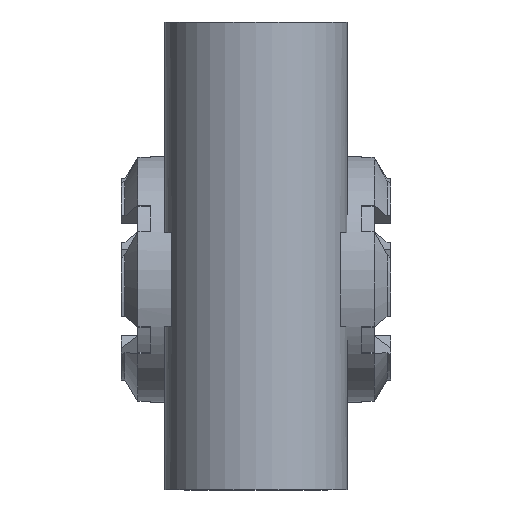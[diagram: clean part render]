
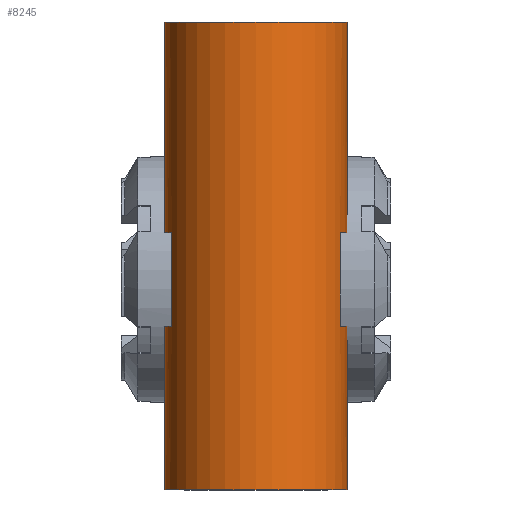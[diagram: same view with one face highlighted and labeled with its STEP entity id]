
A CAD part, front view. The second image highlights one B-rep face of the part: STEP entity #8245.
In plain terms, the highlighted cylindrical face has radius 39 mm (diameter 78 mm), a full revolution.
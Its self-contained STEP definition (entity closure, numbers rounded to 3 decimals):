
#753=CIRCLE('',#29635,39.);
#754=CIRCLE('',#29637,39.);
#755=CIRCLE('',#29638,39.);
#756=CIRCLE('',#29639,39.);
#757=CIRCLE('',#29640,39.);
#758=CIRCLE('',#29641,39.);
#3041=LINE('',#50526,#6215);
#3042=LINE('',#50531,#6216);
#3043=LINE('',#50537,#6217);
#3044=LINE('',#50541,#6218);
#3045=LINE('',#50542,#6219);
#3046=LINE('',#50555,#6220);
#6215=VECTOR('',#34543,1.);
#6216=VECTOR('',#34546,1.);
#6217=VECTOR('',#34551,1.);
#6218=VECTOR('',#34554,1.);
#6219=VECTOR('',#34555,1.);
#6220=VECTOR('',#34556,1.);
#6711=CYLINDRICAL_SURFACE('',#29642,39.);
#6900=FACE_BOUND('',#12126,.T.);
#6901=FACE_BOUND('',#12127,.T.);
#6902=FACE_BOUND('',#12128,.T.);
#6903=FACE_BOUND('',#12129,.T.);
#6904=FACE_BOUND('',#12130,.T.);
#8245=ADVANCED_FACE('',(#6900,#6901,#6902,#6903,#6904),#6711,.T.);
#12126=EDGE_LOOP('',(#19480));
#12127=EDGE_LOOP('',(#19481));
#12128=EDGE_LOOP('',(#19482,#19483,#19484,#19485));
#12129=EDGE_LOOP('',(#19486,#19487,#19488,#19489));
#12130=EDGE_LOOP('',(#19490,#19491,#19492,#19493));
#19480=ORIENTED_EDGE('',*,*,#26591,.T.);
#19481=ORIENTED_EDGE('',*,*,#26592,.T.);
#19482=ORIENTED_EDGE('',*,*,#26593,.F.);
#19483=ORIENTED_EDGE('',*,*,#26594,.T.);
#19484=ORIENTED_EDGE('',*,*,#26595,.F.);
#19485=ORIENTED_EDGE('',*,*,#26596,.T.);
#19486=ORIENTED_EDGE('',*,*,#26597,.T.);
#19487=ORIENTED_EDGE('',*,*,#26598,.F.);
#19488=ORIENTED_EDGE('',*,*,#26599,.T.);
#19489=ORIENTED_EDGE('',*,*,#26600,.F.);
#19490=ORIENTED_EDGE('',*,*,#26527,.F.);
#19491=ORIENTED_EDGE('',*,*,#26601,.F.);
#19492=ORIENTED_EDGE('',*,*,#26602,.T.);
#19493=ORIENTED_EDGE('',*,*,#26603,.F.);
#22675=VERTEX_POINT('',#47600);
#22676=VERTEX_POINT('',#47601);
#22719=VERTEX_POINT('',#50522);
#22720=VERTEX_POINT('',#50525);
#22721=VERTEX_POINT('',#50527);
#22722=VERTEX_POINT('',#50528);
#22723=VERTEX_POINT('',#50530);
#22724=VERTEX_POINT('',#50532);
#22725=VERTEX_POINT('',#50535);
#22726=VERTEX_POINT('',#50536);
#22727=VERTEX_POINT('',#50538);
#22728=VERTEX_POINT('',#50540);
#22729=VERTEX_POINT('',#50543);
#22730=VERTEX_POINT('',#50554);
#26527=EDGE_CURVE('',#22675,#22676,#28596,.T.);
#26591=EDGE_CURVE('',#22719,#22719,#753,.T.);
#26592=EDGE_CURVE('',#22720,#22720,#754,.T.);
#26593=EDGE_CURVE('',#22721,#22722,#3041,.T.);
#26594=EDGE_CURVE('',#22721,#22723,#755,.T.);
#26595=EDGE_CURVE('',#22724,#22723,#3042,.T.);
#26596=EDGE_CURVE('',#22724,#22722,#756,.T.);
#26597=EDGE_CURVE('',#22725,#22726,#757,.T.);
#26598=EDGE_CURVE('',#22727,#22726,#3043,.T.);
#26599=EDGE_CURVE('',#22727,#22728,#758,.T.);
#26600=EDGE_CURVE('',#22725,#22728,#3044,.T.);
#26601=EDGE_CURVE('',#22729,#22675,#3045,.T.);
#26602=EDGE_CURVE('',#22729,#22730,#28649,.T.);
#26603=EDGE_CURVE('',#22676,#22730,#3046,.T.);
#28596=B_SPLINE_CURVE_WITH_KNOTS('',3,(#47590,#47591,#47592,#47593,#47594,
#47595,#47596,#47597,#47598,#47599),.UNSPECIFIED.,.F.,.F.,(4,2,2,2,4),(0.,
0.25,0.5,0.75,1.),.UNSPECIFIED.);
#28649=B_SPLINE_CURVE_WITH_KNOTS('',3,(#50544,#50545,#50546,#50547,#50548,
#50549,#50550,#50551,#50552,#50553),.UNSPECIFIED.,.F.,.F.,(4,2,2,2,4),(0.,
0.25,0.5,0.75,1.),.UNSPECIFIED.);
#29635=AXIS2_PLACEMENT_3D('',#50521,#34537,#34538);
#29637=AXIS2_PLACEMENT_3D('',#50524,#34541,#34542);
#29638=AXIS2_PLACEMENT_3D('',#50529,#34544,#34545);
#29639=AXIS2_PLACEMENT_3D('',#50533,#34547,#34548);
#29640=AXIS2_PLACEMENT_3D('',#50534,#34549,#34550);
#29641=AXIS2_PLACEMENT_3D('',#50539,#34552,#34553);
#29642=AXIS2_PLACEMENT_3D('',#50556,#34557,#34558);
#34537=DIRECTION('',(0.,0.,-1.));
#34538=DIRECTION('',(-1.,0.,0.));
#34541=DIRECTION('',(0.,0.,1.));
#34542=DIRECTION('',(-1.,0.,0.));
#34543=DIRECTION('',(0.,0.,1.));
#34544=DIRECTION('',(0.,0.,-1.));
#34545=DIRECTION('',(1.,0.,0.));
#34546=DIRECTION('',(0.,0.,-1.));
#34547=DIRECTION('',(0.,0.,1.));
#34548=DIRECTION('',(0.923,-0.385,0.));
#34549=DIRECTION('',(0.,0.,-1.));
#34550=DIRECTION('',(-0.923,-0.385,0.));
#34551=DIRECTION('',(0.,0.,-1.));
#34552=DIRECTION('',(0.,0.,1.));
#34553=DIRECTION('',(-1.,0.,0.));
#34554=DIRECTION('',(0.,0.,1.));
#34555=DIRECTION('',(0.,0.,1.));
#34556=DIRECTION('',(0.,0.,-1.));
#34557=DIRECTION('',(0.,0.,1.));
#34558=DIRECTION('',(1.,0.,0.));
#47590=CARTESIAN_POINT('',(-15.,8.5,13.229));
#47591=CARTESIAN_POINT('',(-13.148,9.272,15.328));
#47592=CARTESIAN_POINT('',(-10.883,10.042,17.014));
#47593=CARTESIAN_POINT('',(-5.761,11.161,19.358));
#47594=CARTESIAN_POINT('',(-2.886,11.498,19.997));
#47595=CARTESIAN_POINT('',(2.839,11.502,20.003));
#47596=CARTESIAN_POINT('',(5.713,11.17,19.376));
#47597=CARTESIAN_POINT('',(10.884,10.044,17.018));
#47598=CARTESIAN_POINT('',(13.148,9.272,15.329));
#47599=CARTESIAN_POINT('',(15.,8.5,13.229));
#47600=CARTESIAN_POINT('',(-15.,8.5,13.229));
#47601=CARTESIAN_POINT('',(15.,8.5,13.229));
#50521=CARTESIAN_POINT('',(0.,-27.5,110.));
#50522=CARTESIAN_POINT('',(-39.,-27.5,110.));
#50524=CARTESIAN_POINT('',(0.,-27.5,-90.));
#50525=CARTESIAN_POINT('',(-39.,-27.5,-90.));
#50526=CARTESIAN_POINT('',(36.,-12.5,-20.));
#50527=CARTESIAN_POINT('',(36.,-12.5,-20.));
#50528=CARTESIAN_POINT('',(36.,-12.5,20.));
#50529=CARTESIAN_POINT('',(0.,-27.5,-20.));
#50530=CARTESIAN_POINT('',(36.,-42.5,-20.));
#50531=CARTESIAN_POINT('',(36.,-42.5,20.));
#50532=CARTESIAN_POINT('',(36.,-42.5,20.));
#50533=CARTESIAN_POINT('',(0.,-27.5,20.));
#50534=CARTESIAN_POINT('',(0.,-27.5,-20.));
#50535=CARTESIAN_POINT('',(-36.,-42.5,-20.));
#50536=CARTESIAN_POINT('',(-36.,-12.5,-20.));
#50537=CARTESIAN_POINT('',(-36.,-12.5,20.));
#50538=CARTESIAN_POINT('',(-36.,-12.5,20.));
#50539=CARTESIAN_POINT('',(0.,-27.5,20.));
#50540=CARTESIAN_POINT('',(-36.,-42.5,20.));
#50541=CARTESIAN_POINT('',(-36.,-42.5,-20.));
#50542=CARTESIAN_POINT('',(-15.,8.5,-13.229));
#50543=CARTESIAN_POINT('',(-15.,8.5,-13.229));
#50544=CARTESIAN_POINT('',(-15.,8.5,-13.229));
#50545=CARTESIAN_POINT('',(-13.148,9.272,-15.328));
#50546=CARTESIAN_POINT('',(-10.883,10.042,-17.014));
#50547=CARTESIAN_POINT('',(-5.761,11.161,-19.358));
#50548=CARTESIAN_POINT('',(-2.886,11.498,-19.997));
#50549=CARTESIAN_POINT('',(2.839,11.502,-20.003));
#50550=CARTESIAN_POINT('',(5.713,11.17,-19.376));
#50551=CARTESIAN_POINT('',(10.884,10.044,-17.018));
#50552=CARTESIAN_POINT('',(13.148,9.272,-15.329));
#50553=CARTESIAN_POINT('',(15.,8.5,-13.229));
#50554=CARTESIAN_POINT('',(15.,8.5,-13.229));
#50555=CARTESIAN_POINT('',(15.,8.5,13.229));
#50556=CARTESIAN_POINT('',(0.,-27.5,-100.));
